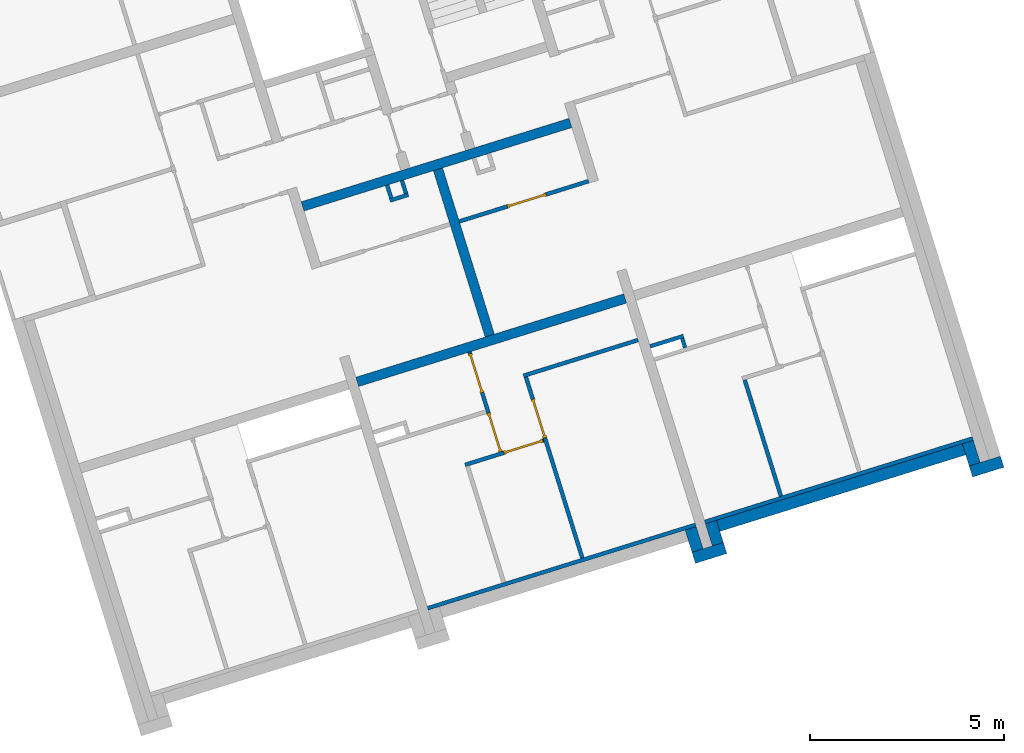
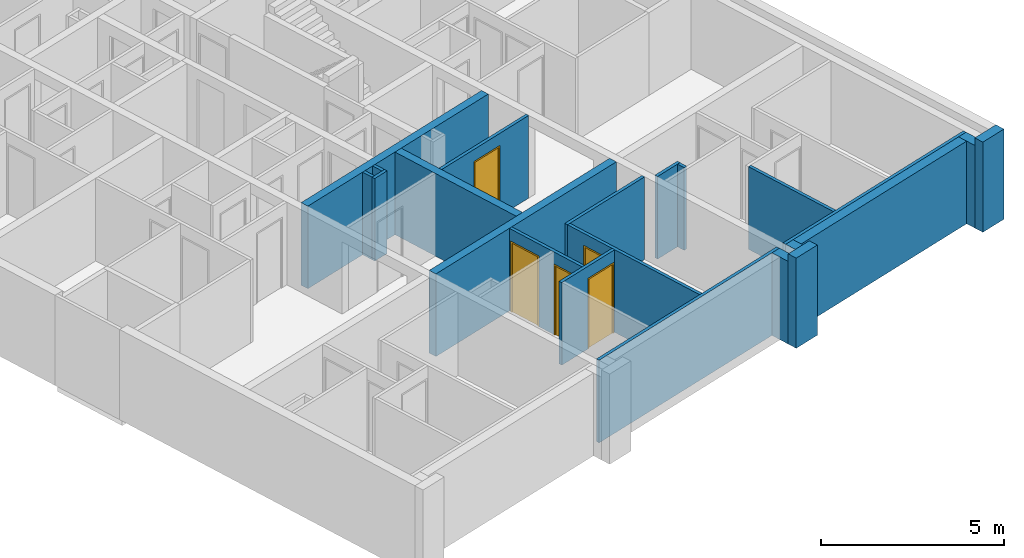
# One storey, part 3 of 12: 22 walls, 5 doors, 8 openings.
"""IFC4 building model written with IfcOpenShell, lengths in metres."""

from ifc_helpers import new_model, entity, si_unit, converted_unit, direction, frame, origin, place, context, subcontext, project, spatial, indexed_curve, outline, extrude, polygons, source, transform, mapped, material, constituent, constituent_set, type_object, type_shapes, element, fill, save


model = new_model("IFC4")

# Units and contexts
model_context = context("Model", 3, precision=1e-05, world=origin(), true_north=direction((6.12323399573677e-17, 1.0)))
body_context = subcontext(model_context, "Body", "Model", "MODEL_VIEW")
ifc_project = project(units=[si_unit("LENGTHUNIT", "METRE"), si_unit("AREAUNIT", "SQUARE_METRE"), si_unit("VOLUMEUNIT", "CUBIC_METRE"), converted_unit("PLANEANGLEUNIT", "DEGREE", entity("IfcPlaneAngleMeasure", 0.0174532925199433), si_unit("PLANEANGLEUNIT", "RADIAN"), dimensions=[0, 0, 0, 0, 0, 0, 0])], contexts=[model_context])

# Site, building, storey
site_placement = place(None, frame((13.1347999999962, 11.9886000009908, 0.0), z_axis=(0.0, 0.0, 1.0), x_axis=(0.954770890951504, 0.297342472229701, 0.0)))
site = spatial("IfcSite", under=ifc_project, at=site_placement, Name="Schiehaven", CompositionType="ELEMENT")
building_placement = place(site_placement, origin())
building = spatial("IfcBuilding", under=site, at=building_placement, Name="VORM huis", CompositionType="ELEMENT")
storey_placement = place(building_placement, frame((0.0, 0.0, 3.9)))
storey = spatial("IfcBuildingStorey", under=building, at=storey_placement, Name="01 eerste verdieping", CompositionType="ELEMENT", Elevation=3.9)

# Walls
ifc_material_1 = material(Name="beton_gewapend_ihw", Category="Miscellaneous")
wall_type_1 = type_object("IfcWallType", Name="Basic Wall:28_WA_skelet_wand 250mm_gen", PredefinedType="STANDARD")
wall_1_placement = place(storey_placement, frame((19.8750000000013, 11.9, 0.0), z_axis=(0.0, 0.0, 1.0), x_axis=(-1.0, 0.0, 0.0)))
element("IfcWall", 1, at=wall_1_placement, inside=storey, type_object=wall_type_1, material=ifc_material_1, Name="Constructieve wand", ObjectType="Wand", PredefinedType="NOTDEFINED", context=body_context, shape_type="SweptSolid", body=[
    extrude(outline(indexed_curve([(7.25000000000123, 0.125), (-8.26393618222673e-17, 0.125), (8.26393618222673e-17, -0.125), (7.25000000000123, -0.124999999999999), (7.25000000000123, 0.125)], self_intersect=False)), origin(), (0.0, 0.0, 1.0), 2.75),
])
ifc_material_2 = material(Name="ntb_ntb_ntb", Category="Miscellaneous")
wall_type_2 = type_object("IfcWallType", Name="Basic Wall:21_WA_gevel_binnenspouwwand 100mm_gen", PredefinedType="STANDARD")
wall_2_placement = place(storey_placement, frame((19.875, 1.02499999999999, 0.0), z_axis=(0.0, 0.0, 1.0), x_axis=(-1.0, 0.0, 0.0)))
element("IfcWall", 2, at=wall_2_placement, inside=storey, type_object=wall_type_2, material=ifc_material_2, Name="Binnenspouwblad", ObjectType="Wand", PredefinedType="NOTDEFINED", context=body_context, shape_type="SweptSolid", body=[
    extrude(outline(indexed_curve([(7.24999999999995, 0.05), (-3.39037421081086e-16, 0.05), (3.39037421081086e-16, -0.05), (7.24999999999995, -0.05), (7.24999999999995, 0.05)], self_intersect=False)), origin(), (0.0, 0.0, 1.0), 2.75),
])
wall_3_placement = place(storey_placement, frame((20.1250000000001, 1.02500000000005, 0.0)))
element("IfcWall", 3, at=wall_3_placement, inside=storey, type_object=wall_type_2, material=ifc_material_2, Name="Binnenspouwblad", ObjectType="Wand", PredefinedType="NOTDEFINED", context=body_context, shape_type="SweptSolid", body=[
    extrude(outline(indexed_curve([(7.24999999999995, 0.05), (-1.84844170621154e-16, 0.05), (1.84844170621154e-16, -0.05), (7.24999999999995, -0.05), (7.24999999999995, 0.05)], self_intersect=False)), origin(), (0.0, 0.0, 1.0), 2.75),
])
wall_type_3 = type_object("IfcWallType", Name="Basic Wall: 300mm_gen", PredefinedType="STANDARD")
wall_4_placement = place(storey_placement, frame((19.7250000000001, 0.374999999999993, 0.0), z_axis=(0.0, 0.0, 1.0), x_axis=(0.0, 1.0, 0.0)))
element("IfcWall", 4, at=wall_4_placement, inside=storey, type_object=wall_type_3, material=ifc_material_2, Name="Gevelwand", ObjectType="Wand", PredefinedType="NOTDEFINED", context=body_context, shape_type="SweptSolid", body=[
    extrude(outline(indexed_curve([(0.600000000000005, 0.150000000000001), (0.0, 0.150000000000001), (0.0, -0.150000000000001), (0.600000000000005, -0.150000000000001), (0.600000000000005, 0.150000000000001)], self_intersect=False)), origin(), (0.0, 0.0, 1.0), 2.75),
])
wall_5_placement = place(storey_placement, frame((20.4250000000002, 0.224999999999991, 0.0), z_axis=(0.0, 0.0, 1.0), x_axis=(-1.0, 0.0, 0.0)))
element("IfcWall", 5, at=wall_5_placement, inside=storey, type_object=wall_type_3, material=ifc_material_2, Name="Gevelwand", ObjectType="Wand", PredefinedType="NOTDEFINED", context=body_context, shape_type="SweptSolid", body=[
    extrude(outline(indexed_curve([(0.850000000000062, 0.15), (-3.08086889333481e-16, 0.15), (3.08086889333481e-16, -0.15), (0.850000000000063, -0.15), (0.850000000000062, 0.15)], self_intersect=False)), origin(), (0.0, 0.0, 1.0), 3.0),
])
wall_6_placement = place(storey_placement, frame((20.2750000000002, 0.974999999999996, 0.0), z_axis=(0.0, 0.0, 1.0), x_axis=(0.0, -1.0, 0.0)))
element("IfcWall", 6, at=wall_6_placement, inside=storey, type_object=wall_type_3, material=ifc_material_2, Name="Gevelwand", ObjectType="Wand", PredefinedType="NOTDEFINED", context=body_context, shape_type="SweptSolid", body=[
    extrude(outline(indexed_curve([(0.600000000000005, 0.150000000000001), (0.0, 0.150000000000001), (0.0, -0.150000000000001), (0.600000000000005, -0.150000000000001), (0.600000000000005, 0.150000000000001)], self_intersect=False)), origin(), (0.0, 0.0, 1.0), 2.75),
])
wall_7_placement = place(storey_placement, frame((27.2250000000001, 0.374999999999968, 0.0), z_axis=(0.0, 0.0, 1.0), x_axis=(0.0, 1.0, 0.0)))
element("IfcWall", 7, at=wall_7_placement, inside=storey, type_object=wall_type_3, material=ifc_material_2, Name="Gevelwand", ObjectType="Wand", PredefinedType="NOTDEFINED", context=body_context, shape_type="SweptSolid", body=[
    extrude(outline(indexed_curve([(0.600000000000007, 0.150000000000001), (0.0, 0.150000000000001), (0.0, -0.150000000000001), (0.600000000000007, -0.150000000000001), (0.600000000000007, 0.150000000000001)], self_intersect=False)), origin(), (0.0, 0.0, 1.0), 2.75),
])
wall_8_placement = place(storey_placement, frame((27.0750000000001, 0.824999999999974, 0.0), z_axis=(0.0, 0.0, 1.0), x_axis=(-1.0, 0.0, 0.0)))
element("IfcWall", 8, at=wall_8_placement, inside=storey, type_object=wall_type_3, material=ifc_material_2, Name="Gevelwand", ObjectType="Wand", PredefinedType="NOTDEFINED", context=body_context, shape_type="SweptSolid", body=[
    extrude(outline(indexed_curve([(6.64999999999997, 0.15), (-4.76111769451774e-16, 0.15), (4.76111769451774e-16, -0.15), (6.64999999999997, -0.15), (6.64999999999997, 0.15)], self_intersect=False)), origin(), (0.0, 0.0, 1.0), 2.75),
])
wall_9_placement = place(storey_placement, frame((27.9250000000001, 0.224999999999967, 0.0), z_axis=(0.0, 0.0, 1.0), x_axis=(-1.0, 0.0, 0.0)))
element("IfcWall", 9, at=wall_9_placement, inside=storey, type_object=wall_type_3, material=ifc_material_2, Name="Gevelwand", ObjectType="Wand", PredefinedType="NOTDEFINED", context=body_context, shape_type="SweptSolid", body=[
    extrude(outline(indexed_curve([(0.849999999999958, 0.15), (-3.08086889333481e-16, 0.15), (3.08086889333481e-16, -0.15), (0.849999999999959, -0.15), (0.849999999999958, 0.15)], self_intersect=False)), origin(), (0.0, 0.0, 1.0), 3.0),
])
wall_type_4 = type_object("IfcWallType", Name="Basic Wall:22_WA_afbouw_binnenwand 250mm_gen", PredefinedType="STANDARD")
wall_10_placement = place(storey_placement, frame((16.2500000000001, 11.7750000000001, 0.0), z_axis=(0.0, 0.0, 1.0), x_axis=(0.0, -1.0, 0.0)))
element("IfcWall", 10, at=wall_10_placement, inside=storey, type_object=wall_type_4, material=ifc_material_2, Name="Binnenwand", ObjectType="Wand", PredefinedType="NOTDEFINED", context=body_context, shape_type="SweptSolid", body=[
    extrude(outline(indexed_curve([(4.49999999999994, 0.124999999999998), (-4.42822187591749e-16, 0.125), (4.42822187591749e-16, -0.125), (4.49999999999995, -0.125000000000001), (4.49999999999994, 0.124999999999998)], self_intersect=False)), origin(), (0.0, 0.0, 1.0), 2.75),
])
wall_11_placement = place(storey_placement, frame((12.625, 7.15000000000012, 0.0)))
element("IfcWall", 11, at=wall_11_placement, inside=storey, type_object=wall_type_4, material=ifc_material_2, Name="Binnenwand", ObjectType="Wand", PredefinedType="NOTDEFINED", context=body_context, shape_type="SweptSolid", body=[
    extrude(outline(indexed_curve([(7.24999999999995, 0.125), (-3.36084576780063e-16, 0.125), (3.36084576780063e-16, -0.125), (7.24999999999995, -0.125), (7.24999999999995, 0.125)], self_intersect=False)), origin(), (0.0, 0.0, 1.0), 2.75),
])

# Wall, openings, door
wall_type_5 = type_object("IfcWallType", Name="Basic Wall:22_WA_afbouw_binnenwand 100mm_gen", PredefinedType="STANDARD")
wall_12_placement = place(storey_placement, frame((16.775, 4.27500000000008, 0.0), z_axis=(0.0, 0.0, 1.0), x_axis=(-1.0, 0.0, 0.0)))
wall_12 = element("IfcWall", 12, at=wall_12_placement, inside=storey, type_object=wall_type_5, material=ifc_material_2, Name="Binnenwand", ObjectType="Wand", PredefinedType="NOTDEFINED", context=body_context, shape_type="Tessellation", body=[
    polygons([(2.12499999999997, -0.0499999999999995, 2.75), (1.19999999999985, -0.05, 2.75), (1.09999999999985, -0.05, 2.75), (0.0, -0.0499999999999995, 2.75), (0.0, -0.05, 2.34999999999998), (0.0, -0.0499999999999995, 0.0), (0.025000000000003, -0.0499999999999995, 0.0), (0.025000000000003, -0.0499999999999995, 2.34999999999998), (1.075, -0.0499999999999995, 2.34999999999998), (1.075, -0.0499999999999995, 0.0), (2.12499999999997, -0.0499999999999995, 0.0), (0.0, 0.05, 2.75), (2.02499999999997, 0.05, 2.75), (2.12499999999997, 0.05, 2.75), (2.12499999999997, 0.05, 0.0), (2.02499999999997, 0.05, 5.41433564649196e-16), (1.075, 0.05, 0.0), (1.075, 0.05, 2.34999999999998), (0.025000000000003, 0.05, 2.34999999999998), (0.025000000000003, 0.05, 0.0), (0.0, 0.05, 0.0)], [[[1, 2, 3, 4, 5, 6, 7, 8, 9, 10, 11]], [[12, 13, 14, 15, 16, 17, 18, 19, 20, 21]], [[6, 21, 20, 7]], [[4, 3, 2, 1, 14, 13, 12]], [[6, 5, 4, 12, 21]], [[19, 8, 7, 20]], [[9, 18, 17, 10]], [[8, 19, 18, 9]], [[1, 11, 15, 14]], [[15, 11, 10, 17, 16]]], closed=True),
])
opening_1_placement = place(wall_12_placement, origin())
element("IfcOpeningElement", 13, at=opening_1_placement, cuts=wall_12, Name="Binnendeur", PredefinedType="OPENING", context=body_context, shape_type="SweptSolid", body=[
    extrude(outline(indexed_curve([(-0.0499999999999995, -1.17499999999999), (0.0499999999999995, -1.17499999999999), (0.0499999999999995, 1.17499999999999), (-0.0499999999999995, 1.17499999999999), (-0.0499999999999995, -1.17499999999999)], self_intersect=False)), frame((1.14999999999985, -1.10000000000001, 1.17499999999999), z_axis=(0.0, 1.0, 0.0), x_axis=(1.0, 0.0, 0.0)), (0.0, 0.0, 1.0), 1.05),
])
opening_2_placement = place(wall_12_placement, frame((1.075, 0.0499999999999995, 0.0)))
opening_2 = element("IfcOpeningElement", 14, at=opening_2_placement, cuts=wall_12, Name="Binnendeur", PredefinedType="OPENING", context=body_context, shape_type="SweptSolid", body=[
    extrude(outline(indexed_curve([(2.34999999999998, 1.05), (0.0, 1.05), (0.0, 1.35358391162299e-15), (2.34999999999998, 1.35358391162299e-15), (2.34999999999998, 1.05)], self_intersect=False)), frame((0.0, 0.0, 0.0), z_axis=(0.0, -1.0, 0.0), x_axis=(0.0, 0.0, 1.0)), (0.0, 0.0, 1.0), 0.1),
])
ifc_material_3 = material(Name="PD_a_binnenwandopeningen", Category="Miscellaneous")
ifc_constituent_1 = constituent(ifc_material_3, Name="PD_a_binnenwandopeningen", Category="Miscellaneous")
ifc_material_4 = material(Name="metaal_aluminium_ntb", Category="Miscellaneous")
ifc_constituent_2 = constituent(ifc_material_4, Name="metaal_aluminium_ntb", Category="Miscellaneous")
ifc_constituent_set_1 = constituent_set(constituents=[ifc_constituent_1, ifc_constituent_2])
door_type = type_object("IfcDoorType", Name="32_DO_binnendeur enkel:binnendeur", OperationType="REVOLVING", PredefinedType="DOOR")
shared_shape_1 = source(origin(), body_context, "Body", "SweptSolid", [
    extrude(outline(indexed_curve([(-1.16249999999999, -0.525000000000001), (1.18749999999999, -0.525), (1.18749999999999, 0.525), (-1.16249999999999, 0.525), (-1.16249999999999, 0.475), (1.13749999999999, 0.475), (1.13749999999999, -0.475), (-1.16249999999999, -0.475), (-1.16249999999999, -0.525000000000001)], self_intersect=False)), frame((0.525000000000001, 0.0, 1.16249999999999), z_axis=(0.0, 1.0, 0.0), x_axis=(0.0, 0.0, 1.0)), (0.0, 0.0, 1.0), 0.1),
    extrude(outline(indexed_curve([(-0.025, -0.475), (0.025, -0.475), (0.025, 0.475), (-0.025, 0.475), (-0.025, -0.475)], self_intersect=False)), frame((0.525000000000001, 0.0499999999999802, 0.0), z_axis=(0.0, 0.0, 1.0), x_axis=(0.0, 1.0, 0.0)), (0.0, 0.0, 1.0), 2.29999999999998),
])
type_shapes(door_type, [shared_shape_1])
door_1_placement = place(opening_2_placement, frame((0.0, 0.0, 0.0), z_axis=(0.0, 0.0, 1.0), x_axis=(-1.0, 0.0, 0.0)))
door_1 = element("IfcDoor", 15, at=door_1_placement, inside=storey, type_object=door_type, material=ifc_constituent_set_1, Name="Binnendeur", ObjectType="Deur", OperationType="REVOLVING", OverallHeight=2.34999999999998, OverallWidth=1.05, PredefinedType="DOOR", context=body_context, shape_type="MappedRepresentation", body=[
    mapped(shared_shape_1, transform((0.0, 0.0, 0.0), scale=1.0)),
])
fill(opening_2, door_1)

# Wall
wall_13_placement = place(storey_placement, frame((16.775, 6.02500000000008, 0.0)))
element("IfcWall", 16, at=wall_13_placement, inside=storey, type_object=wall_type_5, material=ifc_material_2, Name="Binnenwand", ObjectType="Wand", PredefinedType="NOTDEFINED", context=body_context, shape_type="SweptSolid", body=[
    extrude(outline(indexed_curve([(3.10000000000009, 0.0499999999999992), (-1.5325289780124e-16, 0.0499999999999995), (1.5325289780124e-16, -0.0499999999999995), (3.10000000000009, -0.0499999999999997), (3.10000000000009, 0.0499999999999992)], self_intersect=False)), origin(), (0.0, 0.0, 1.0), 2.75),
])

# Wall, openings, door
wall_14_placement = place(storey_placement, frame((16.8249999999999, 1.07500000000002, 0.0), z_axis=(0.0, 0.0, 1.0), x_axis=(0.0, 1.0, 0.0)))
wall_14 = element("IfcWall", 17, at=wall_14_placement, inside=storey, type_object=wall_type_5, material=ifc_material_2, Name="Binnenwand", ObjectType="Wand", PredefinedType="NOTDEFINED", context=body_context, shape_type="Tessellation", body=[
    polygons([(4.90000000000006, -0.0500000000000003, 2.75), (2.70716782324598e-16, -0.0500000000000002, 2.75), (5.41433564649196e-16, -0.0500000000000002, 0.0), (3.25000000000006, -0.0499999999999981, 0.0), (3.25000000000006, -0.0499999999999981, 2.34999999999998), (4.30000000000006, -0.0499999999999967, 2.34999999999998), (4.30000000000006, -0.0500000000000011, 0.0), (4.90000000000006, -0.0500000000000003, 0.0), (4.06075173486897e-16, 0.0499999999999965, 2.75), (3.15000000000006, 0.0499999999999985, 2.75), (3.25000000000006, 0.0499999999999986, 2.75), (4.90000000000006, 0.0499999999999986, 2.75), (4.90000000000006, 0.0499999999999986, 0.0), (4.30000000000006, 0.05, 0.0), (4.30000000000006, 0.05, 2.34999999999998), (3.25000000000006, 0.0499999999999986, 2.34999999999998), (3.25000000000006, 0.0499999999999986, 0.0), (3.15000000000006, 0.0499999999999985, 5.41433564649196e-16), (5.41433564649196e-16, 0.0499999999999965, 0.0)], [[[1, 2, 3, 4, 5, 6, 7, 8]], [[9, 10, 11, 12, 13, 14, 15, 16, 17, 18, 19]], [[3, 19, 18, 17, 4]], [[2, 1, 12, 11, 10, 9]], [[3, 2, 9, 19]], [[1, 8, 13, 12]], [[6, 15, 14, 7]], [[16, 5, 4, 17]], [[15, 6, 5, 16]], [[13, 8, 7, 14]]], closed=True),
])
opening_3_placement = place(wall_14_placement, frame((3.25000000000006, -0.050000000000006, 0.0)))
opening_3 = element("IfcOpeningElement", 18, at=opening_3_placement, cuts=wall_14, Name="Binnendeur", PredefinedType="OPENING", context=body_context, shape_type="SweptSolid", body=[
    extrude(outline(indexed_curve([(2.34999999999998, 1.05), (0.0, 1.05), (0.0, 0.0), (2.34999999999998, 0.0), (2.34999999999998, 1.05)], self_intersect=False)), frame((0.0, 0.0, 0.0), z_axis=(0.0, 1.0, 0.0), x_axis=(0.0, 0.0, 1.0)), (0.0, 0.0, 1.0), 0.1),
])
opening_4_placement = place(wall_14_placement, frame((-1.07500000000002, 16.8249999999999, 0.0), z_axis=(0.0, 0.0, 1.0), x_axis=(0.0, -1.0, 0.0)))
element("IfcOpeningElement", 19, at=opening_4_placement, cuts=wall_14, Name="Binnendeur", PredefinedType="OPENING", context=body_context, shape_type="SweptSolid", body=[
    extrude(outline(indexed_curve([(-1.17499999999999, -0.525000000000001), (1.17499999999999, -0.525000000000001), (1.17499999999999, 0.525), (-1.17499999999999, 0.525), (-1.17499999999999, -0.525000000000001)], self_intersect=False)), frame((18.399, 4.85000000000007, 1.17499999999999), z_axis=(-1.0, 0.0, 0.0), x_axis=(0.0, 0.0, -1.0)), (0.0, 0.0, 1.0), 3.048),
])
ifc_constituent_3 = constituent(ifc_material_3, Name="PD_a_binnenwandopeningen", Category="Miscellaneous")
ifc_constituent_4 = constituent(ifc_material_4, Name="metaal_aluminium_ntb", Category="Miscellaneous")
ifc_constituent_set_2 = constituent_set(constituents=[ifc_constituent_3, ifc_constituent_4])
door_2_placement = place(opening_3_placement, origin())
door_2 = element("IfcDoor", 20, at=door_2_placement, inside=storey, type_object=door_type, material=ifc_constituent_set_2, Name="Binnendeur", ObjectType="Deur", OperationType="REVOLVING", OverallHeight=2.34999999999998, OverallWidth=1.05, PredefinedType="DOOR", context=body_context, shape_type="MappedRepresentation", body=[
    mapped(shared_shape_1, transform((0.0, 0.0, 0.0), scale=1.0)),
])
fill(opening_3, door_2)

# Wall, openings, doors
wall_15_placement = place(storey_placement, frame((15.6250000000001, 4.32500000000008, 0.0), z_axis=(0.0, 0.0, 1.0), x_axis=(0.0, 1.0, 0.0)))
wall_15 = element("IfcWall", 21, at=wall_15_placement, inside=storey, type_object=wall_type_5, material=ifc_material_2, Name="Binnenwand", ObjectType="Wand", PredefinedType="NOTDEFINED", context=body_context, shape_type="Tessellation", body=[
    polygons([(2.70000000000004, -0.0499999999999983, 2.75), (-5.41433564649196e-16, -0.0499999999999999, 2.75), (-5.41433564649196e-16, -0.0499999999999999, 2.34999999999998), (1.05000000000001, -0.0500000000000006, 2.34999999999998), (1.05000000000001, -0.0500000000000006, 0.0), (1.59999999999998, -0.0499999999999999, 0.0), (1.59999999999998, -0.0499999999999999, 2.34999999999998), (2.64999999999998, -0.0499999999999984, 2.34999999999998), (2.64999999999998, -0.0499999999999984, 0.0), (2.70000000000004, -0.0499999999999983, 0.0), (-5.41433564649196e-16, 0.0499999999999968, 2.75), (1.05000000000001, 0.0499999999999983, 2.75), (1.15000000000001, 0.0499999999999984, 2.75), (2.70000000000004, 0.0499999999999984, 2.75), (2.70000000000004, 0.0499999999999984, 0.0), (2.64999999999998, 0.0499999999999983, 0.0), (2.64999999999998, 0.0499999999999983, 2.34999999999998), (1.59999999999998, 0.049999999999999, 2.34999999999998), (1.59999999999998, 0.049999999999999, 0.0), (1.15000000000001, 0.0499999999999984, 5.41433564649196e-16), (1.05000000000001, 0.0499999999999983, 0.0), (1.05000000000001, 0.0499999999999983, 2.34999999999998), (-5.41433564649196e-16, 0.0499999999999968, 2.34999999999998)], [[[1, 2, 3, 4, 5, 6, 7, 8, 9, 10]], [[11, 12, 13, 14, 15, 16, 17, 18, 19, 20, 21, 22, 23]], [[19, 6, 5, 21, 20]], [[2, 1, 14, 13, 12, 11]], [[1, 10, 15, 14]], [[18, 17, 8, 7]], [[17, 16, 9, 8]], [[19, 18, 7, 6]], [[2, 11, 23, 3]], [[4, 22, 21, 5]], [[22, 4, 3, 23]], [[15, 10, 9, 16]]], closed=True),
])
opening_5_placement = place(wall_15_placement, frame((2.64999999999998, 0.0499999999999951, 0.0)))
opening_5 = element("IfcOpeningElement", 22, at=opening_5_placement, cuts=wall_15, Name="Binnendeur", PredefinedType="OPENING", context=body_context, shape_type="SweptSolid", body=[
    extrude(outline(indexed_curve([(2.34999999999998, 1.05), (0.0, 1.05), (0.0, 5.41433564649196e-16), (2.34999999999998, 5.41433564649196e-16), (2.34999999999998, 1.05)], self_intersect=False)), frame((0.0, 0.0, 0.0), z_axis=(0.0, -1.0, 0.0), x_axis=(0.0, 0.0, 1.0)), (0.0, 0.0, 1.0), 0.1),
])
opening_6_placement = place(wall_15_placement, frame((-4.32500000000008, 15.6250000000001, 0.0), z_axis=(0.0, 0.0, 1.0), x_axis=(0.0, -1.0, 0.0)))
element("IfcOpeningElement", 23, at=opening_6_placement, cuts=wall_15, Name="Binnendeur", PredefinedType="OPENING", context=body_context, shape_type="SweptSolid", body=[
    extrude(outline(indexed_curve([(-0.525000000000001, -1.17499999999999), (0.525, -1.17499999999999), (0.525, 1.17499999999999), (-0.525000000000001, 1.17499999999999), (-0.525000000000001, -1.17499999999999)], self_intersect=False)), frame((17.0990000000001, 6.45000000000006, 1.17499999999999), z_axis=(-1.0, 0.0, 0.0), x_axis=(0.0, 1.0, 0.0)), (0.0, 0.0, 1.0), 3.048),
])
opening_7_placement = place(wall_15_placement, frame((1.05000000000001, 0.0499999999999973, 0.0)))
opening_7 = element("IfcOpeningElement", 24, at=opening_7_placement, cuts=wall_15, Name="Binnendeur", PredefinedType="OPENING", context=body_context, shape_type="SweptSolid", body=[
    extrude(outline(indexed_curve([(2.34999999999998, 1.05), (0.0, 1.05), (0.0, 2.70716782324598e-16), (2.34999999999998, 2.70716782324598e-16), (2.34999999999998, 1.05)], self_intersect=False)), frame((0.0, 0.0, 0.0), z_axis=(0.0, -1.0, 0.0), x_axis=(0.0, 0.0, 1.0)), (0.0, 0.0, 1.0), 0.1),
])
ifc_constituent_5 = constituent(ifc_material_3, Name="PD_a_binnenwandopeningen", Category="Miscellaneous")
ifc_constituent_6 = constituent(ifc_material_4, Name="metaal_aluminium_ntb", Category="Miscellaneous")
ifc_constituent_set_3 = constituent_set(constituents=[ifc_constituent_5, ifc_constituent_6])
door_3_placement = place(opening_5_placement, frame((0.0, 0.0, 0.0), z_axis=(0.0, 0.0, 1.0), x_axis=(-1.0, 0.0, 0.0)))
door_3 = element("IfcDoor", 25, at=door_3_placement, inside=storey, type_object=door_type, material=ifc_constituent_set_3, Name="Binnendeur", ObjectType="Deur", OperationType="REVOLVING", OverallHeight=2.34999999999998, OverallWidth=1.05, PredefinedType="DOOR", context=body_context, shape_type="MappedRepresentation", body=[
    mapped(shared_shape_1, transform((0.0, 0.0, 0.0), scale=1.0)),
])
fill(opening_5, door_3)
ifc_constituent_7 = constituent(ifc_material_3, Name="PD_a_binnenwandopeningen", Category="Miscellaneous")
ifc_constituent_8 = constituent(ifc_material_4, Name="metaal_aluminium_ntb", Category="Miscellaneous")
ifc_constituent_set_4 = constituent_set(constituents=[ifc_constituent_7, ifc_constituent_8])
door_4_placement = place(opening_7_placement, frame((0.0, 0.0, 0.0), z_axis=(0.0, 0.0, 1.0), x_axis=(-1.0, 0.0, 0.0)))
door_4 = element("IfcDoor", 26, at=door_4_placement, inside=storey, type_object=door_type, material=ifc_constituent_set_4, Name="Binnendeur", ObjectType="Deur", OperationType="REVOLVING", OverallHeight=2.34999999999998, OverallWidth=1.05, PredefinedType="DOOR", context=body_context, shape_type="MappedRepresentation", body=[
    mapped(shared_shape_1, transform((0.0, 0.0, 0.0), scale=1.0)),
])
fill(opening_7, door_4)

# Walls
wall_16_placement = place(storey_placement, frame((22.1999999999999, 1.075, 0.0), z_axis=(0.0, 0.0, 1.0), x_axis=(0.0, 1.0, 0.0)))
element("IfcWall", 27, at=wall_16_placement, inside=storey, type_object=wall_type_5, material=ifc_material_2, Name="Binnenwand", ObjectType="Wand", PredefinedType="NOTDEFINED", context=body_context, shape_type="SweptSolid", body=[
    extrude(outline(indexed_curve([(3.15000000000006, 0.0500000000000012), (-6.18781216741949e-17, 0.0500000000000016), (6.18781216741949e-17, -0.0500000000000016), (3.15000000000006, -0.0500000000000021), (3.15000000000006, 0.0500000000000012)], self_intersect=False)), origin(), (0.0, 0.0, 1.0), 2.75),
])
wall_17_placement = place(storey_placement, frame((20.125, 5.77500000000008, 0.0)))
element("IfcWall", 28, at=wall_17_placement, inside=storey, type_object=wall_type_5, material=ifc_material_2, Name="Binnenwand", ObjectType="Wand", PredefinedType="NOTDEFINED", context=body_context, shape_type="SweptSolid", body=[
    extrude(outline(indexed_curve([(0.89999999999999, 0.0500000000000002), (-1.02695629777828e-16, 0.0500000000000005), (1.02695629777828e-16, -0.0500000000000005), (0.89999999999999, -0.0500000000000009), (0.89999999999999, 0.0500000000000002)], self_intersect=False)), origin(), (0.0, 0.0, 1.0), 2.75),
])
wall_18_placement = place(storey_placement, frame((20.975, 5.72500000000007, 0.0), z_axis=(0.0, 0.0, 1.0), x_axis=(0.0, -1.0, 0.0)))
element("IfcWall", 29, at=wall_18_placement, inside=storey, type_object=wall_type_5, material=ifc_material_2, Name="Binnenwand", ObjectType="Wand", PredefinedType="NOTDEFINED", context=body_context, shape_type="SweptSolid", body=[
    extrude(outline(indexed_curve([(0.250000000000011, 0.0500000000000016), (0.0, 0.0500000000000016), (0.0, -0.0500000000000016), (0.250000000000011, -0.0500000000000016), (0.250000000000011, 0.0500000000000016)], self_intersect=False)), origin(), (0.0, 0.0, 1.0), 2.75),
])
wall_19_placement = place(storey_placement, frame((14.8750000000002, 11.775, 0.0), z_axis=(0.0, 0.0, 1.0), x_axis=(0.0, -1.0, 0.0)))
element("IfcWall", 30, at=wall_19_placement, inside=storey, type_object=wall_type_5, material=ifc_material_2, Name="Binnenwand", ObjectType="Wand", PredefinedType="NOTDEFINED", context=body_context, shape_type="SweptSolid", body=[
    extrude(outline(indexed_curve([(0.350000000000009, 0.0499999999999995), (0.0, 0.0499999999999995), (0.0, -0.0499999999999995), (0.350000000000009, -0.0499999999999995), (0.350000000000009, 0.0499999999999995)], self_intersect=False)), origin(), (0.0, 0.0, 1.0), 2.75),
])
wall_20_placement = place(storey_placement, frame((15.2750000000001, 11.775, 0.0), z_axis=(0.0, 0.0, 1.0), x_axis=(0.0, -1.0, 0.0)))
element("IfcWall", 31, at=wall_20_placement, inside=storey, type_object=wall_type_5, material=ifc_material_2, Name="Binnenwand", ObjectType="Wand", PredefinedType="NOTDEFINED", context=body_context, shape_type="SweptSolid", body=[
    extrude(outline(indexed_curve([(0.350000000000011, 0.0499999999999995), (0.0, 0.0499999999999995), (0.0, -0.0499999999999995), (0.350000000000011, -0.0499999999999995), (0.350000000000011, 0.0499999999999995)], self_intersect=False)), origin(), (0.0, 0.0, 1.0), 2.75),
])
wall_21_placement = place(storey_placement, frame((15.3250000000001, 11.375, 0.0), z_axis=(0.0, 0.0, 1.0), x_axis=(-1.0, 0.0, 0.0)))
element("IfcWall", 32, at=wall_21_placement, inside=storey, type_object=wall_type_5, material=ifc_material_2, Name="Binnenwand", ObjectType="Wand", PredefinedType="NOTDEFINED", context=body_context, shape_type="SweptSolid", body=[
    extrude(outline(indexed_curve([(0.499999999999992, 0.0499999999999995), (-6.51559150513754e-16, 0.0499999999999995), (6.51559150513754e-16, -0.0499999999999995), (0.499999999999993, -0.0499999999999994), (0.499999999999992, 0.0499999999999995)], self_intersect=False)), origin(), (0.0, 0.0, 1.0), 2.75),
])

# Wall, opening, door
wall_22_placement = place(storey_placement, frame((16.3750000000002, 10.325, 0.0)))
wall_22 = element("IfcWall", 33, at=wall_22_placement, inside=storey, type_object=wall_type_5, material=ifc_material_2, Name="Binnenwand", ObjectType="Wand", PredefinedType="NOTDEFINED", context=body_context, shape_type="Tessellation", body=[
    polygons([(3.50000000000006, -0.0500000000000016, -5.41433564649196e-16), (3.50000000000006, -0.0500000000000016, 2.75), (3.77456542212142e-16, -0.0500000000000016, 2.75), (3.77456542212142e-16, -0.0500000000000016, -5.41433564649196e-16), (1.29999999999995, -0.0500000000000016, -5.41433564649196e-16), (1.29999999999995, -0.0500000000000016, 2.34999999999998), (2.34999999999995, -0.0500000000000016, 2.34999999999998), (2.34999999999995, -0.0500000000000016, -5.41433564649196e-16), (3.50000000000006, 0.0499999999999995, 2.75), (3.50000000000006, 0.0499999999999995, -5.41433564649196e-16), (2.34999999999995, 0.0499999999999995, -5.41433564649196e-16), (2.34999999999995, 0.0499999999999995, 2.34999999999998), (1.29999999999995, 0.0499999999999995, 2.34999999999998), (1.29999999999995, 0.0499999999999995, -5.41433564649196e-16), (4.02207790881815e-16, 0.0499999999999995, -5.41433564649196e-16), (4.02207790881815e-16, 0.0499999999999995, 2.75)], [[[1, 2, 3, 4, 5, 6, 7, 8]], [[9, 10, 11, 12, 13, 14, 15, 16]], [[4, 15, 14, 5]], [[2, 1, 10, 9]], [[3, 2, 9, 16]], [[4, 3, 16, 15]], [[7, 12, 11, 8]], [[13, 6, 5, 14]], [[12, 7, 6, 13]], [[10, 1, 8, 11]]], closed=True),
])
opening_8_placement = place(wall_22_placement, frame((2.34999999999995, 0.0499999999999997, 0.0)))
opening_8 = element("IfcOpeningElement", 34, at=opening_8_placement, cuts=wall_22, Name="Binnendeur", PredefinedType="OPENING", context=body_context, shape_type="SweptSolid", body=[
    extrude(outline(indexed_curve([(2.34999999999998, 1.35358391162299e-15), (2.34999999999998, 1.05), (0.0, 1.05), (0.0, 1.35358391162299e-15), (2.34999999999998, 1.35358391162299e-15)], self_intersect=False)), frame((0.0, 0.0, 0.0), z_axis=(0.0, -1.0, 0.0), x_axis=(0.0, 0.0, 1.0)), (0.0, 0.0, 1.0), 0.1),
])
ifc_constituent_9 = constituent(ifc_material_3, Name="PD_a_binnenwandopeningen", Category="Miscellaneous")
ifc_constituent_10 = constituent(ifc_material_4, Name="metaal_aluminium_ntb", Category="Miscellaneous")
ifc_constituent_set_5 = constituent_set(constituents=[ifc_constituent_9, ifc_constituent_10])
shared_shape_2 = source(origin(), body_context, "Body", "SweptSolid", [
    extrude(outline(indexed_curve([(0.475, -1.16249999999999), (0.525, -1.16249999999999), (0.525, 1.18749999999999), (-0.525, 1.18749999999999), (-0.525, -1.16249999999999), (-0.475, -1.16249999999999), (-0.475, 1.13749999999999), (0.475, 1.13749999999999), (0.475, -1.16249999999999)], self_intersect=False)), frame((0.525000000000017, 0.100000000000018, 1.16249999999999), z_axis=(0.0, -1.0, 0.0), x_axis=(1.0, 0.0, 0.0)), (0.0, 0.0, 1.0), 0.1),
    extrude(outline(indexed_curve([(-0.475, -0.025), (0.475, -0.025), (0.475, 0.025), (-0.475, 0.025), (-0.475, -0.025)], self_intersect=False)), frame((0.525000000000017, 0.0499999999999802, 0.0)), (0.0, 0.0, 1.0), 2.29999999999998),
])
door_5_placement = place(opening_8_placement, frame((0.0, 0.0, 0.0), z_axis=(0.0, 0.0, 1.0), x_axis=(-1.0, 0.0, 0.0)))
door_5 = element("IfcDoor", 35, at=door_5_placement, inside=storey, type_object=door_type, material=ifc_constituent_set_5, Name="Binnendeur", ObjectType="Deur", OperationType="REVOLVING", OverallHeight=2.34999999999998, OverallWidth=1.05, PredefinedType="DOOR", context=body_context, shape_type="MappedRepresentation", body=[
    mapped(shared_shape_2, transform((0.0, 0.0, 0.0), scale=1.0)),
])
fill(opening_8, door_5)

save(model, "model.ifc")
